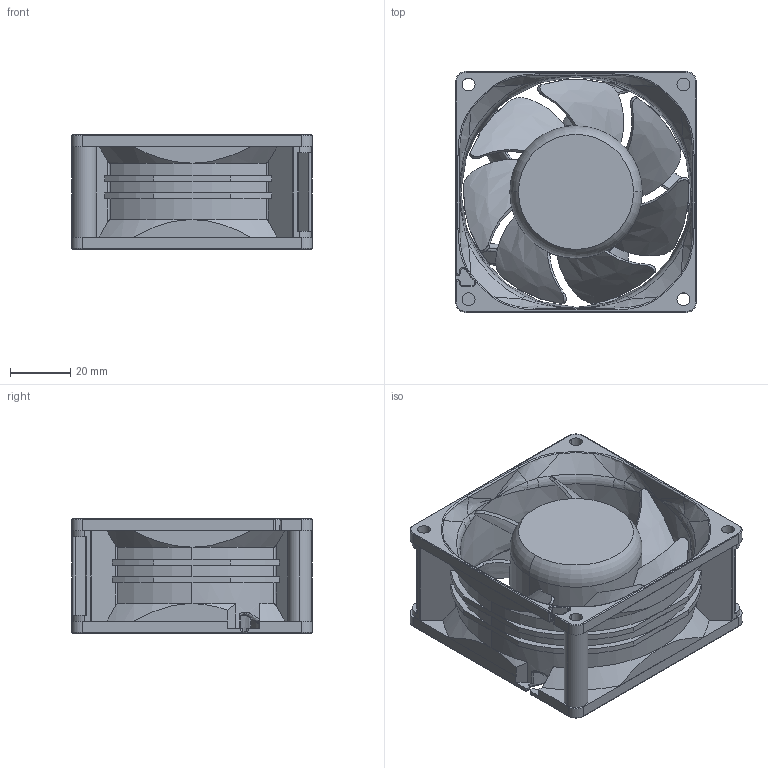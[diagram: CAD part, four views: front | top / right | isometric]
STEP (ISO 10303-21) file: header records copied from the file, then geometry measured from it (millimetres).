
FILE_DESCRIPTION (( 'STEP AP214' ), '1' );
FILE_NAME ('8038GV_RIBBED.STEP', '2017-03-29T08:46:52', ( '' ), ( '' ), 'SwSTEP 2.0', 'SolidWorks 2017', '' );
FILE_SCHEMA (( 'AUTOMOTIVE_DESIGN' ));
Length unit declared in the file: millimetre
Products named in the file (1): 8038GV_RIBBED
Bounding box: 80.2 x 80.2 x 38 mm (x, y, z)
Volume: 90713.5 mm3; surface area: 47753 mm2
Topology: 1 solids, 1 shells, 605 faces, 1651 edges, 1011 vertices
Faces by surface type: cylinder 194, bspline 176, plane 139, torus 57, cone 36, sphere 3
Entity records: 27917 total; most frequent: CARTESIAN_POINT 14230, ORIENTED_EDGE 3226, DIRECTION 2452, EDGE_CURVE 1613, VERTEX_POINT 1011, AXIS2_PLACEMENT_3D 1001, EDGE_LOOP 624, FACE_OUTER_BOUND 605
